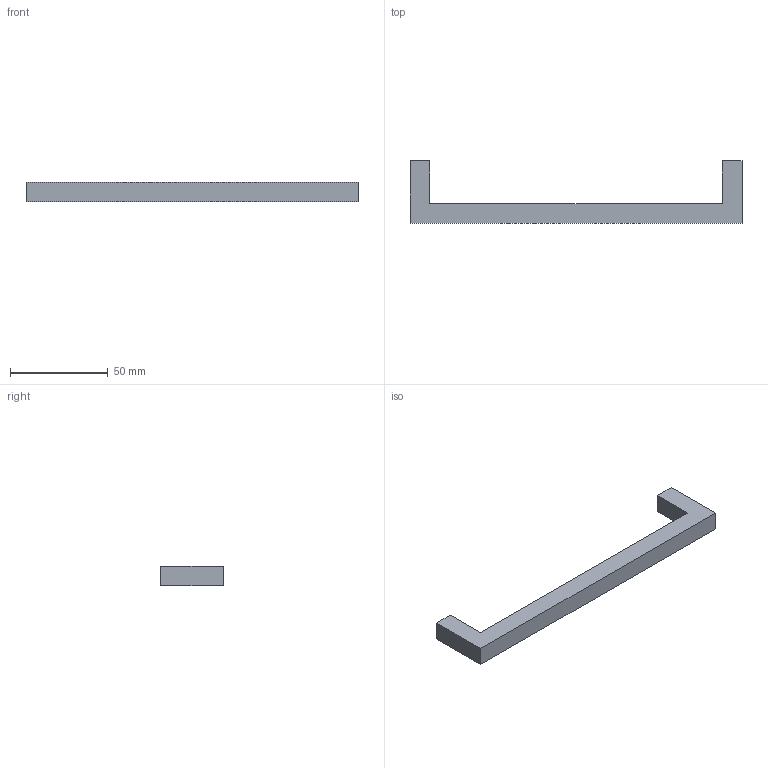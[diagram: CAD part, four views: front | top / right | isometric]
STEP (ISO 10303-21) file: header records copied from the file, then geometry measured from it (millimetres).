
FILE_DESCRIPTION( ( '' ), '1' );
FILE_NAME( 'C:/Documents and Settings/Sachin/Desktop/Sheet 10_1/stp/1160019.stp', '2013-10-22T06:46:49', ( '' ), ( '' ), ' ', ' ', ' ' );
FILE_SCHEMA( ( 'CONFIG_CONTROL_DESIGN' ) );
Length unit declared in the file: millimetre
Products named in the file (1): 1
Bounding box: 170 x 32 x 10 mm (x, y, z)
Volume: 21148.7 mm3; surface area: 9011.3 mm2
Topology: 1 solids, 1 shells, 16 faces, 36 edges, 24 vertices
Faces by surface type: plane 12, cylinder 4
Entity records: 492 total; most frequent: DIRECTION 78, CARTESIAN_POINT 77, ORIENTED_EDGE 72, EDGE_CURVE 36, LINE 28, VECTOR 28, AXIS2_PLACEMENT_3D 25, VERTEX_POINT 24
